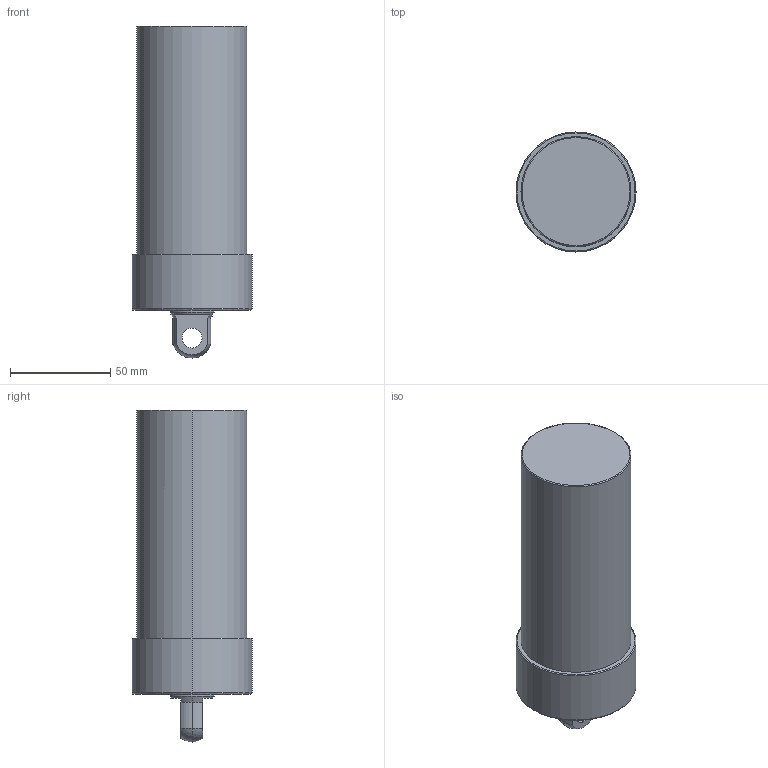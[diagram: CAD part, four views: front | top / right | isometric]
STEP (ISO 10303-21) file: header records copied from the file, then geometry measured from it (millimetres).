
FILE_DESCRIPTION (( 'STEP AP203' ), '1' );
FILE_NAME ('CLLU055-CP-085.STEP', '2017-05-15T07:56:01', ( '' ), ( '' ), 'SwSTEP 2.0', 'SolidWorks 2015', '' );
FILE_SCHEMA (( 'CONFIG_CONTROL_DESIGN' ));
Length unit declared in the file: millimetre
Products named in the file (1): CLLU055-CP-085
Bounding box: 60 x 60 x 166 mm (x, y, z)
Volume: 352242 mm3; surface area: 32951.5 mm2
Topology: 1 solids, 1 shells, 58 faces, 131 edges, 75 vertices
Faces by surface type: cylinder 23, cone 18, plane 9, torus 6, sphere 2
Entity records: 1658 total; most frequent: DIRECTION 311, CARTESIAN_POINT 269, ORIENTED_EDGE 246, AXIS2_PLACEMENT_3D 133, EDGE_CURVE 123, VERTEX_POINT 75, CIRCLE 74, EDGE_LOOP 68
